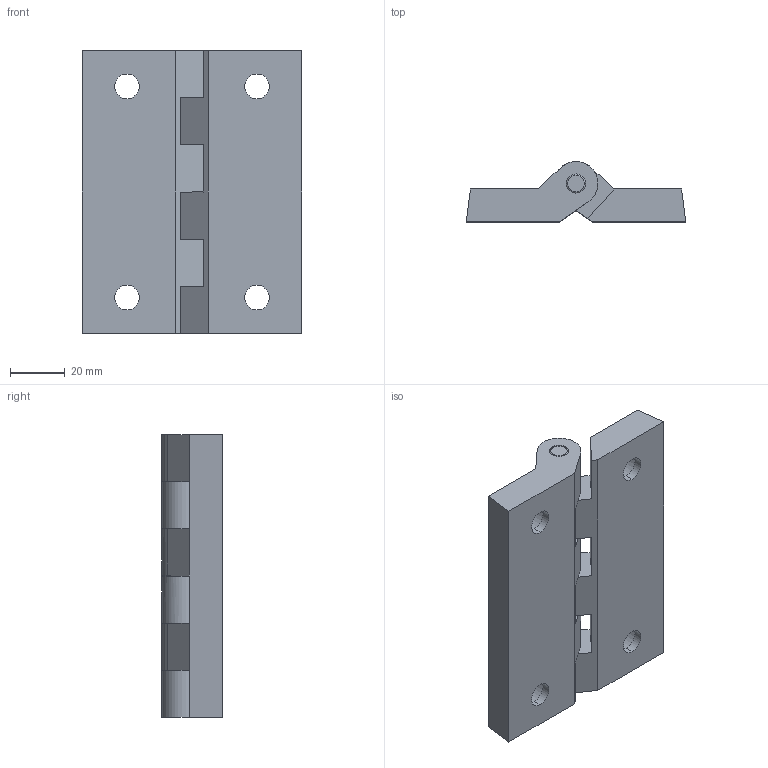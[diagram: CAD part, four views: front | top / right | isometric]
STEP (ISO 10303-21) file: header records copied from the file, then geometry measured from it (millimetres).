
FILE_DESCRIPTION (( 'STEP AP203' ), '1' );
FILE_NAME ('206-CE-HG-50.STEP', '2015-07-09T09:25:23', ( '' ), ( '' ), 'SwSTEP 2.0', 'SolidWorks 2013', '' );
FILE_SCHEMA (( 'CONFIG_CONTROL_DESIGN' ));
Length unit declared in the file: millimetre
Products named in the file (1): 206-CE-HG-50
Bounding box: 80 x 21.99 x 103 mm (x, y, z)
Surface area: 28231.8 mm2 (no closed solid volume)
Topology: 0 solids, 4 shells, 70 faces, 186 edges, 126 vertices
Faces by surface type: plane 40, cylinder 26, torus 4
Entity records: 2310 total; most frequent: CARTESIAN_POINT 407, DIRECTION 396, ORIENTED_EDGE 352, EDGE_CURVE 186, AXIS2_PLACEMENT_3D 145, VERTEX_POINT 126, VECTOR 106, LINE 106
